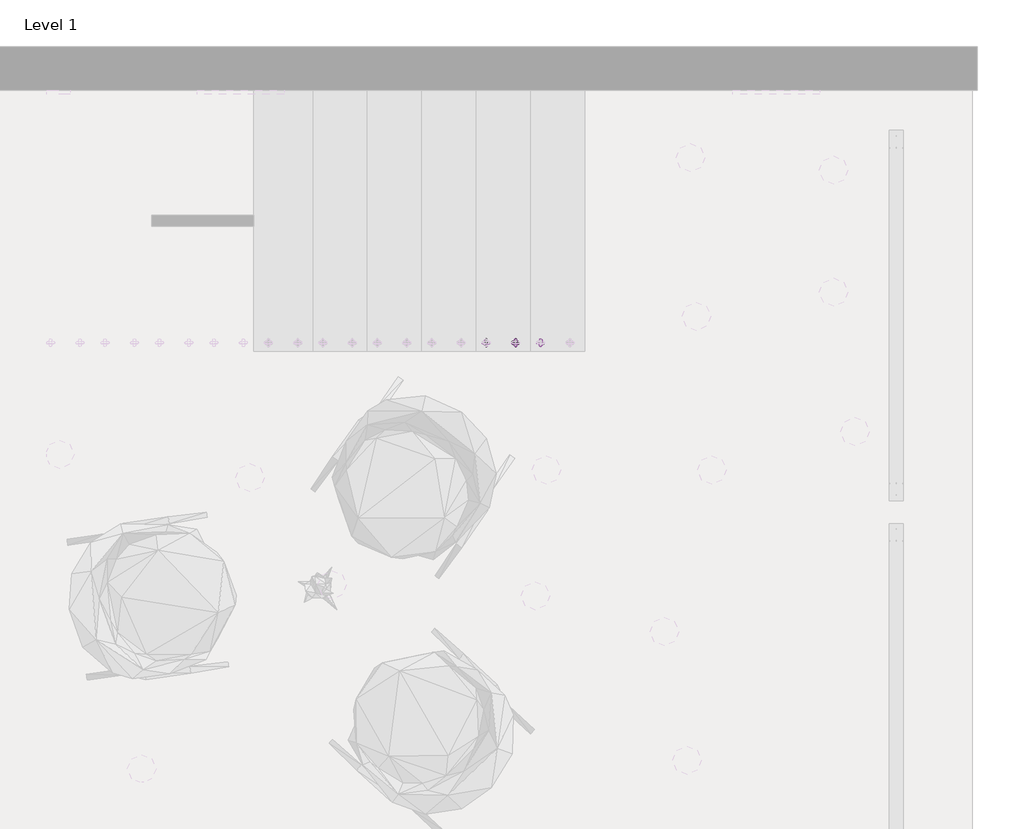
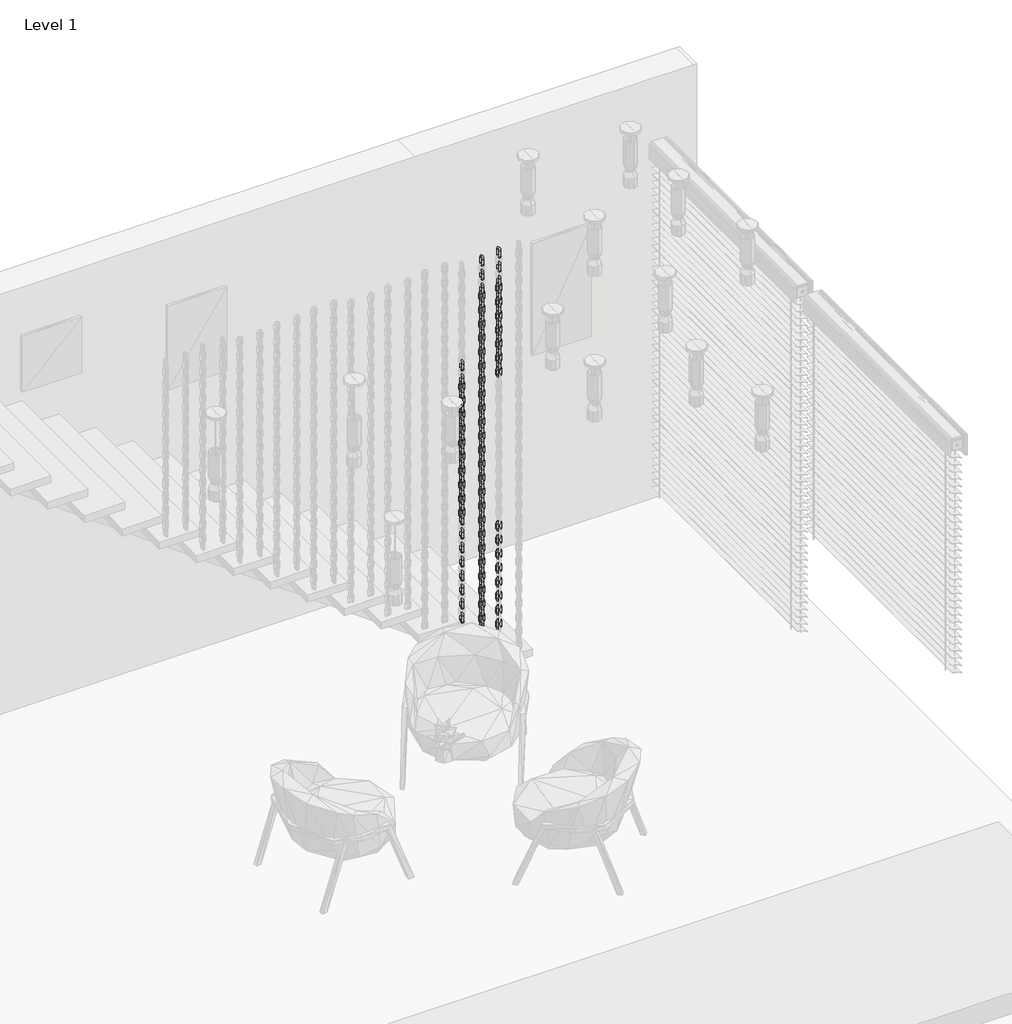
# One storey, part 9 of 12: 108 proxies.
"""IFC4 building model written with IfcOpenShell, lengths in millimetres."""

from ifc_helpers import new_model, si_unit, origin, place, context, project, spatial, transform, mapped, element, save
from components import family1_family1_50133a43, family1_family1_d3af85bb

model = new_model("IFC4")

# Units and contexts
model_context = context("Model", 3, world=origin())
ifc_project = project(units=[si_unit("LENGTHUNIT", "METRE", prefix="MILLI")], contexts=[model_context])

# Site, building, storey
site = spatial("IfcSite", under=ifc_project)
building = spatial("IfcBuilding", under=site)
storey = spatial("IfcBuildingStorey", under=building, Name="Level 1", Elevation=0.0)

# Proxies
placement = place(None, origin())
family1_family1_shape = family1_family1_50133a43(model_context)
element("IfcBuildingElementProxy", 1, Name="Family1 : Family1", ObjectType="Family1 : Family1", at=placement, inside=storey, context=model_context, shape_type="MappedRepresentation", body=[
    mapped(family1_family1_shape, transform((14865.1232124, 1139.760891, 965.1859795), x_axis=(-0.03315618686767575, 0.0, 0.9994501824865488), y_axis=(-0.9994501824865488, 0.0, -0.03315618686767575), z_axis=(0.0, -1.0, 0.0))),
])
element("IfcBuildingElementProxy", 2, Name="Family1 : Family1", ObjectType="Family1 : Family1", at=placement, inside=storey, context=model_context, shape_type="MappedRepresentation", body=[
    mapped(family1_family1_shape, transform((14865.1232124, 1139.760891, 1065.1859795), x_axis=(-0.033156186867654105, 0.0, 0.9994501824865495), y_axis=(-0.9994501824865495, 0.0, -0.033156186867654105), z_axis=(0.0, -1.0, 0.0))),
])
element("IfcBuildingElementProxy", 3, Name="Family1 : Family1", ObjectType="Family1 : Family1", at=placement, inside=storey, context=model_context, shape_type="MappedRepresentation", body=[
    mapped(family1_family1_shape, transform((14865.1232124, 1139.760891, 1165.1859795), x_axis=(-0.03315618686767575, 0.0, 0.9994501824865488), y_axis=(-0.9994501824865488, 0.0, -0.03315618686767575), z_axis=(0.0, -1.0, 0.0))),
])
element("IfcBuildingElementProxy", 4, Name="Family1 : Family1", ObjectType="Family1 : Family1", at=placement, inside=storey, context=model_context, shape_type="MappedRepresentation", body=[
    mapped(family1_family1_shape, transform((14865.1232124, 1139.760891, 1265.1859795), x_axis=(-0.03315618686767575, 0.0, 0.9994501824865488), y_axis=(-0.9994501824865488, 0.0, -0.03315618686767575), z_axis=(0.0, -1.0, 0.0))),
])
element("IfcBuildingElementProxy", 5, Name="Family1 : Family1", ObjectType="Family1 : Family1", at=placement, inside=storey, context=model_context, shape_type="MappedRepresentation", body=[
    mapped(family1_family1_shape, transform((14865.1232124, 1139.760891, 1365.1859795), x_axis=(-0.03315618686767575, 0.0, 0.9994501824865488), y_axis=(-0.9994501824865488, 0.0, -0.03315618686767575), z_axis=(0.0, -1.0, 0.0))),
])
element("IfcBuildingElementProxy", 6, Name="Family1 : Family1", ObjectType="Family1 : Family1", at=placement, inside=storey, context=model_context, shape_type="MappedRepresentation", body=[
    mapped(family1_family1_shape, transform((14865.1232124, 1139.760891, 1465.1859795), x_axis=(-0.03315618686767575, 0.0, 0.9994501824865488), y_axis=(-0.9994501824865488, 0.0, -0.03315618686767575), z_axis=(0.0, -1.0, 0.0))),
])
element("IfcBuildingElementProxy", 7, Name="Family1 : Family1", ObjectType="Family1 : Family1", at=placement, inside=storey, context=model_context, shape_type="MappedRepresentation", body=[
    mapped(family1_family1_shape, transform((14865.1232124, 1139.760891, 1565.1859795), x_axis=(-0.033156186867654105, 0.0, 0.9994501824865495), y_axis=(-0.9994501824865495, 0.0, -0.033156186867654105), z_axis=(0.0, -1.0, 0.0))),
])
element("IfcBuildingElementProxy", 8, Name="Family1 : Family1", ObjectType="Family1 : Family1", at=placement, inside=storey, context=model_context, shape_type="MappedRepresentation", body=[
    mapped(family1_family1_shape, transform((14865.1232124, 1139.760891, 1665.1859795), x_axis=(-0.03315618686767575, 0.0, 0.9994501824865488), y_axis=(-0.9994501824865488, 0.0, -0.03315618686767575), z_axis=(0.0, -1.0, 0.0))),
])
element("IfcBuildingElementProxy", 9, Name="Family1 : Family1", ObjectType="Family1 : Family1", at=placement, inside=storey, context=model_context, shape_type="MappedRepresentation", body=[
    mapped(family1_family1_shape, transform((14865.1232124, 1139.760891, 1765.1859795), x_axis=(-0.03315618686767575, 0.0, 0.9994501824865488), y_axis=(-0.9994501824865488, 0.0, -0.03315618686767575), z_axis=(0.0, -1.0, 0.0))),
])
element("IfcBuildingElementProxy", 10, Name="Family1 : Family1", ObjectType="Family1 : Family1", at=placement, inside=storey, context=model_context, shape_type="MappedRepresentation", body=[
    mapped(family1_family1_shape, transform((14750.1232124, 1139.760891, -52.4610794), x_axis=(-0.033156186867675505, 0.0, 0.9994501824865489), y_axis=(-0.9994501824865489, 0.0, -0.033156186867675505), z_axis=(0.0, -1.0, 0.0))),
])
element("IfcBuildingElementProxy", 11, Name="Family1 : Family1", ObjectType="Family1 : Family1", at=placement, inside=storey, context=model_context, shape_type="MappedRepresentation", body=[
    mapped(family1_family1_shape, transform((14750.1232124, 1139.760891, 47.5389206), x_axis=(-0.033156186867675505, 0.0, 0.9994501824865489), y_axis=(-0.9994501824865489, 0.0, -0.033156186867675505), z_axis=(0.0, -1.0, 0.0))),
])
element("IfcBuildingElementProxy", 12, Name="Family1 : Family1", ObjectType="Family1 : Family1", at=placement, inside=storey, context=model_context, shape_type="MappedRepresentation", body=[
    mapped(family1_family1_shape, transform((14750.1232124, 1139.760891, 147.5389206), x_axis=(-0.033156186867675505, 0.0, 0.9994501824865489), y_axis=(-0.9994501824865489, 0.0, -0.033156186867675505), z_axis=(0.0, -1.0, 0.0))),
])
element("IfcBuildingElementProxy", 13, Name="Family1 : Family1", ObjectType="Family1 : Family1", at=placement, inside=storey, context=model_context, shape_type="MappedRepresentation", body=[
    mapped(family1_family1_shape, transform((14750.1232124, 1139.760891, 247.5389206), x_axis=(-0.033156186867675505, 0.0, 0.9994501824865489), y_axis=(-0.9994501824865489, 0.0, -0.033156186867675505), z_axis=(0.0, -1.0, 0.0))),
])
element("IfcBuildingElementProxy", 14, Name="Family1 : Family1", ObjectType="Family1 : Family1", at=placement, inside=storey, context=model_context, shape_type="MappedRepresentation", body=[
    mapped(family1_family1_shape, transform((14750.1232124, 1139.760891, 347.5389206), x_axis=(-0.033156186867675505, 0.0, 0.9994501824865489), y_axis=(-0.9994501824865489, 0.0, -0.033156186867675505), z_axis=(0.0, -1.0, 0.0))),
])
element("IfcBuildingElementProxy", 15, Name="Family1 : Family1", ObjectType="Family1 : Family1", at=placement, inside=storey, context=model_context, shape_type="MappedRepresentation", body=[
    mapped(family1_family1_shape, transform((14750.1232124, 1139.760891, 447.5389206), x_axis=(-0.033156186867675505, 0.0, 0.9994501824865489), y_axis=(-0.9994501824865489, 0.0, -0.033156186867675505), z_axis=(0.0, -1.0, 0.0))),
])
element("IfcBuildingElementProxy", 16, Name="Family1 : Family1", ObjectType="Family1 : Family1", at=placement, inside=storey, context=model_context, shape_type="MappedRepresentation", body=[
    mapped(family1_family1_shape, transform((14750.1232124, 1139.760891, 547.5389206), x_axis=(-0.033156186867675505, 0.0, 0.9994501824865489), y_axis=(-0.9994501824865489, 0.0, -0.033156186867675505), z_axis=(0.0, -1.0, 0.0))),
])
element("IfcBuildingElementProxy", 17, Name="Family1 : Family1", ObjectType="Family1 : Family1", at=placement, inside=storey, context=model_context, shape_type="MappedRepresentation", body=[
    mapped(family1_family1_shape, transform((14750.1232124, 1139.760891, 647.5389206), x_axis=(-0.03315618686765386, 0.0, 0.9994501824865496), y_axis=(-0.9994501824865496, 0.0, -0.03315618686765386), z_axis=(0.0, -1.0, 0.0))),
])
element("IfcBuildingElementProxy", 18, Name="Family1 : Family1", ObjectType="Family1 : Family1", at=placement, inside=storey, context=model_context, shape_type="MappedRepresentation", body=[
    mapped(family1_family1_shape, transform((14750.1232124, 1139.760891, 747.5389206), x_axis=(-0.033156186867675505, 0.0, 0.9994501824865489), y_axis=(-0.9994501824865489, 0.0, -0.033156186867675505), z_axis=(0.0, -1.0, 0.0))),
])
element("IfcBuildingElementProxy", 19, Name="Family1 : Family1", ObjectType="Family1 : Family1", at=placement, inside=storey, context=model_context, shape_type="MappedRepresentation", body=[
    mapped(family1_family1_shape, transform((14750.1232124, 1139.760891, 847.5389206), x_axis=(-0.033156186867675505, 0.0, 0.9994501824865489), y_axis=(-0.9994501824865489, 0.0, -0.033156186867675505), z_axis=(0.0, -1.0, 0.0))),
])
element("IfcBuildingElementProxy", 20, Name="Family1 : Family1", ObjectType="Family1 : Family1", at=placement, inside=storey, context=model_context, shape_type="MappedRepresentation", body=[
    mapped(family1_family1_shape, transform((14750.1232124, 1139.760891, -152.4610794), x_axis=(-0.033156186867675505, 0.0, 0.9994501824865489), y_axis=(-0.9994501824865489, 0.0, -0.033156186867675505), z_axis=(0.0, -1.0, 0.0))),
])
element("IfcBuildingElementProxy", 21, Name="Family1 : Family1", ObjectType="Family1 : Family1", at=placement, inside=storey, context=model_context, shape_type="MappedRepresentation", body=[
    mapped(family1_family1_shape, transform((14750.1232124, 1139.760891, -252.4610794), x_axis=(-0.03315618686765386, 0.0, 0.9994501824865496), y_axis=(-0.9994501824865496, 0.0, -0.03315618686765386), z_axis=(0.0, -1.0, 0.0))),
])
element("IfcBuildingElementProxy", 22, Name="Family1 : Family1", ObjectType="Family1 : Family1", at=placement, inside=storey, context=model_context, shape_type="MappedRepresentation", body=[
    mapped(family1_family1_shape, transform((14750.1232124, 1139.760891, -352.4610794), x_axis=(-0.033156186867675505, 0.0, 0.9994501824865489), y_axis=(-0.9994501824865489, 0.0, -0.033156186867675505), z_axis=(0.0, -1.0, 0.0))),
])
element("IfcBuildingElementProxy", 23, Name="Family1 : Family1", ObjectType="Family1 : Family1", at=placement, inside=storey, context=model_context, shape_type="MappedRepresentation", body=[
    mapped(family1_family1_shape, transform((14750.1232124, 1139.760891, -452.4610794), x_axis=(-0.033156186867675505, 0.0, 0.9994501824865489), y_axis=(-0.9994501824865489, 0.0, -0.033156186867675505), z_axis=(0.0, -1.0, 0.0))),
])
element("IfcBuildingElementProxy", 24, Name="Family1 : Family1", ObjectType="Family1 : Family1", at=placement, inside=storey, context=model_context, shape_type="MappedRepresentation", body=[
    mapped(family1_family1_shape, transform((14750.1232124, 1139.760891, -552.4610794), x_axis=(-0.033156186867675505, 0.0, 0.9994501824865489), y_axis=(-0.9994501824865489, 0.0, -0.033156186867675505), z_axis=(0.0, -1.0, 0.0))),
])
element("IfcBuildingElementProxy", 25, Name="Family1 : Family1", ObjectType="Family1 : Family1", at=placement, inside=storey, context=model_context, shape_type="MappedRepresentation", body=[
    mapped(family1_family1_shape, transform((14750.1232124, 1139.760891, -652.4610794), x_axis=(-0.033156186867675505, 0.0, 0.9994501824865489), y_axis=(-0.9994501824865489, 0.0, -0.033156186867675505), z_axis=(0.0, -1.0, 0.0))),
])
element("IfcBuildingElementProxy", 26, Name="Family1 : Family1", ObjectType="Family1 : Family1", at=placement, inside=storey, context=model_context, shape_type="MappedRepresentation", body=[
    mapped(family1_family1_shape, transform((14750.1232124, 1139.760891, -752.4610794), x_axis=(-0.033156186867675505, 0.0, 0.9994501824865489), y_axis=(-0.9994501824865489, 0.0, -0.033156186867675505), z_axis=(0.0, -1.0, 0.0))),
])
element("IfcBuildingElementProxy", 27, Name="Family1 : Family1", ObjectType="Family1 : Family1", at=placement, inside=storey, context=model_context, shape_type="MappedRepresentation", body=[
    mapped(family1_family1_shape, transform((14750.1232124, 1139.760891, -852.4610794), x_axis=(-0.033156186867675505, 0.0, 0.9994501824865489), y_axis=(-0.9994501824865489, 0.0, -0.033156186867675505), z_axis=(0.0, -1.0, 0.0))),
])
element("IfcBuildingElementProxy", 28, Name="Family1 : Family1", ObjectType="Family1 : Family1", at=placement, inside=storey, context=model_context, shape_type="MappedRepresentation", body=[
    mapped(family1_family1_shape, transform((14750.1232124, 1139.760891, 947.5389206), x_axis=(-0.033156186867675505, 0.0, 0.9994501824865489), y_axis=(-0.9994501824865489, 0.0, -0.033156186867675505), z_axis=(0.0, -1.0, 0.0))),
])
element("IfcBuildingElementProxy", 29, Name="Family1 : Family1", ObjectType="Family1 : Family1", at=placement, inside=storey, context=model_context, shape_type="MappedRepresentation", body=[
    mapped(family1_family1_shape, transform((14750.1232124, 1139.760891, 1047.5389206), x_axis=(-0.033156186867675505, 0.0, 0.9994501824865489), y_axis=(-0.9994501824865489, 0.0, -0.033156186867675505), z_axis=(0.0, -1.0, 0.0))),
])
element("IfcBuildingElementProxy", 30, Name="Family1 : Family1", ObjectType="Family1 : Family1", at=placement, inside=storey, context=model_context, shape_type="MappedRepresentation", body=[
    mapped(family1_family1_shape, transform((14750.1232124, 1139.760891, 1147.5389206), x_axis=(-0.03315618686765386, 0.0, 0.9994501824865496), y_axis=(-0.9994501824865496, 0.0, -0.03315618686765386), z_axis=(0.0, -1.0, 0.0))),
])
element("IfcBuildingElementProxy", 31, Name="Family1 : Family1", ObjectType="Family1 : Family1", at=placement, inside=storey, context=model_context, shape_type="MappedRepresentation", body=[
    mapped(family1_family1_shape, transform((14750.1232124, 1139.760891, 1247.5389206), x_axis=(-0.033156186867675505, 0.0, 0.9994501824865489), y_axis=(-0.9994501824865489, 0.0, -0.033156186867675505), z_axis=(0.0, -1.0, 0.0))),
])
element("IfcBuildingElementProxy", 32, Name="Family1 : Family1", ObjectType="Family1 : Family1", at=placement, inside=storey, context=model_context, shape_type="MappedRepresentation", body=[
    mapped(family1_family1_shape, transform((14750.1232124, 1139.760891, 1347.5389206), x_axis=(-0.033156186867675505, 0.0, 0.9994501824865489), y_axis=(-0.9994501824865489, 0.0, -0.033156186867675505), z_axis=(0.0, -1.0, 0.0))),
])
element("IfcBuildingElementProxy", 33, Name="Family1 : Family1", ObjectType="Family1 : Family1", at=placement, inside=storey, context=model_context, shape_type="MappedRepresentation", body=[
    mapped(family1_family1_shape, transform((14750.1232124, 1139.760891, 1447.5389206), x_axis=(-0.033156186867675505, 0.0, 0.9994501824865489), y_axis=(-0.9994501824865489, 0.0, -0.033156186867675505), z_axis=(0.0, -1.0, 0.0))),
])
element("IfcBuildingElementProxy", 34, Name="Family1 : Family1", ObjectType="Family1 : Family1", at=placement, inside=storey, context=model_context, shape_type="MappedRepresentation", body=[
    mapped(family1_family1_shape, transform((14750.1232124, 1139.760891, 1547.5389206), x_axis=(-0.033156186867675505, 0.0, 0.9994501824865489), y_axis=(-0.9994501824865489, 0.0, -0.033156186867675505), z_axis=(0.0, -1.0, 0.0))),
])
element("IfcBuildingElementProxy", 35, Name="Family1 : Family1", ObjectType="Family1 : Family1", at=placement, inside=storey, context=model_context, shape_type="MappedRepresentation", body=[
    mapped(family1_family1_shape, transform((14750.1232124, 1139.760891, 1647.5389206), x_axis=(-0.033156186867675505, 0.0, 0.9994501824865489), y_axis=(-0.9994501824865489, 0.0, -0.033156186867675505), z_axis=(0.0, -1.0, 0.0))),
])
element("IfcBuildingElementProxy", 36, Name="Family1 : Family1", ObjectType="Family1 : Family1", at=placement, inside=storey, context=model_context, shape_type="MappedRepresentation", body=[
    mapped(family1_family1_shape, transform((14750.1232124, 1139.760891, 1747.5389206), x_axis=(-0.033156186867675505, 0.0, 0.9994501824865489), y_axis=(-0.9994501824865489, 0.0, -0.033156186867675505), z_axis=(0.0, -1.0, 0.0))),
])
element("IfcBuildingElementProxy", 37, Name="Family1 : Family1", ObjectType="Family1 : Family1", at=placement, inside=storey, context=model_context, shape_type="MappedRepresentation", body=[
    mapped(family1_family1_shape, transform((14615.1232124, 1139.760891, -52.4610794), x_axis=(-0.033156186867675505, 0.0, 0.9994501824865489), y_axis=(-0.9994501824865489, 0.0, -0.033156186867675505), z_axis=(0.0, -1.0, 0.0))),
])
element("IfcBuildingElementProxy", 38, Name="Family1 : Family1", ObjectType="Family1 : Family1", at=placement, inside=storey, context=model_context, shape_type="MappedRepresentation", body=[
    mapped(family1_family1_shape, transform((14615.1232124, 1139.760891, 47.5389206), x_axis=(-0.033156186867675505, 0.0, 0.9994501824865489), y_axis=(-0.9994501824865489, 0.0, -0.033156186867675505), z_axis=(0.0, -1.0, 0.0))),
])
element("IfcBuildingElementProxy", 39, Name="Family1 : Family1", ObjectType="Family1 : Family1", at=placement, inside=storey, context=model_context, shape_type="MappedRepresentation", body=[
    mapped(family1_family1_shape, transform((14615.1232124, 1139.760891, 147.5389206), x_axis=(-0.033156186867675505, 0.0, 0.9994501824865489), y_axis=(-0.9994501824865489, 0.0, -0.033156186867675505), z_axis=(0.0, -1.0, 0.0))),
])
element("IfcBuildingElementProxy", 40, Name="Family1 : Family1", ObjectType="Family1 : Family1", at=placement, inside=storey, context=model_context, shape_type="MappedRepresentation", body=[
    mapped(family1_family1_shape, transform((14615.1232124, 1139.760891, 247.5389206), x_axis=(-0.033156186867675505, 0.0, 0.9994501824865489), y_axis=(-0.9994501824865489, 0.0, -0.033156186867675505), z_axis=(0.0, -1.0, 0.0))),
])
element("IfcBuildingElementProxy", 41, Name="Family1 : Family1", ObjectType="Family1 : Family1", at=placement, inside=storey, context=model_context, shape_type="MappedRepresentation", body=[
    mapped(family1_family1_shape, transform((14615.1232124, 1139.760891, 347.5389206), x_axis=(-0.033156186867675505, 0.0, 0.9994501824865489), y_axis=(-0.9994501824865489, 0.0, -0.033156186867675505), z_axis=(0.0, -1.0, 0.0))),
])
element("IfcBuildingElementProxy", 42, Name="Family1 : Family1", ObjectType="Family1 : Family1", at=placement, inside=storey, context=model_context, shape_type="MappedRepresentation", body=[
    mapped(family1_family1_shape, transform((14615.1232124, 1139.760891, 447.5389206), x_axis=(-0.033156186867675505, 0.0, 0.9994501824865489), y_axis=(-0.9994501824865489, 0.0, -0.033156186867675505), z_axis=(0.0, -1.0, 0.0))),
])
element("IfcBuildingElementProxy", 43, Name="Family1 : Family1", ObjectType="Family1 : Family1", at=placement, inside=storey, context=model_context, shape_type="MappedRepresentation", body=[
    mapped(family1_family1_shape, transform((14615.1232124, 1139.760891, 547.5389206), x_axis=(-0.033156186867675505, 0.0, 0.9994501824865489), y_axis=(-0.9994501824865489, 0.0, -0.033156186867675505), z_axis=(0.0, -1.0, 0.0))),
])
element("IfcBuildingElementProxy", 44, Name="Family1 : Family1", ObjectType="Family1 : Family1", at=placement, inside=storey, context=model_context, shape_type="MappedRepresentation", body=[
    mapped(family1_family1_shape, transform((14615.1232124, 1139.760891, 647.5389206), x_axis=(-0.03315618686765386, 0.0, 0.9994501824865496), y_axis=(-0.9994501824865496, 0.0, -0.03315618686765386), z_axis=(0.0, -1.0, 0.0))),
])
element("IfcBuildingElementProxy", 45, Name="Family1 : Family1", ObjectType="Family1 : Family1", at=placement, inside=storey, context=model_context, shape_type="MappedRepresentation", body=[
    mapped(family1_family1_shape, transform((14615.1232124, 1139.760891, 747.5389206), x_axis=(-0.033156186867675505, 0.0, 0.9994501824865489), y_axis=(-0.9994501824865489, 0.0, -0.033156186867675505), z_axis=(0.0, -1.0, 0.0))),
])
element("IfcBuildingElementProxy", 46, Name="Family1 : Family1", ObjectType="Family1 : Family1", at=placement, inside=storey, context=model_context, shape_type="MappedRepresentation", body=[
    mapped(family1_family1_shape, transform((14615.1232124, 1139.760891, 847.5389206), x_axis=(-0.033156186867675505, 0.0, 0.9994501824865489), y_axis=(-0.9994501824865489, 0.0, -0.033156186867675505), z_axis=(0.0, -1.0, 0.0))),
])
element("IfcBuildingElementProxy", 47, Name="Family1 : Family1", ObjectType="Family1 : Family1", at=placement, inside=storey, context=model_context, shape_type="MappedRepresentation", body=[
    mapped(family1_family1_shape, transform((14615.1232124, 1139.760891, -152.4610794), x_axis=(-0.033156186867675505, 0.0, 0.9994501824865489), y_axis=(-0.9994501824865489, 0.0, -0.033156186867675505), z_axis=(0.0, -1.0, 0.0))),
])
element("IfcBuildingElementProxy", 48, Name="Family1 : Family1", ObjectType="Family1 : Family1", at=placement, inside=storey, context=model_context, shape_type="MappedRepresentation", body=[
    mapped(family1_family1_shape, transform((14615.1232124, 1139.760891, -252.4610794), x_axis=(-0.03315618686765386, 0.0, 0.9994501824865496), y_axis=(-0.9994501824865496, 0.0, -0.03315618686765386), z_axis=(0.0, -1.0, 0.0))),
])
element("IfcBuildingElementProxy", 49, Name="Family1 : Family1", ObjectType="Family1 : Family1", at=placement, inside=storey, context=model_context, shape_type="MappedRepresentation", body=[
    mapped(family1_family1_shape, transform((14615.1232124, 1139.760891, -352.4610794), x_axis=(-0.033156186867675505, 0.0, 0.9994501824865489), y_axis=(-0.9994501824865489, 0.0, -0.033156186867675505), z_axis=(0.0, -1.0, 0.0))),
])
element("IfcBuildingElementProxy", 50, Name="Family1 : Family1", ObjectType="Family1 : Family1", at=placement, inside=storey, context=model_context, shape_type="MappedRepresentation", body=[
    mapped(family1_family1_shape, transform((14615.1232124, 1139.760891, -452.4610794), x_axis=(-0.033156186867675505, 0.0, 0.9994501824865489), y_axis=(-0.9994501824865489, 0.0, -0.033156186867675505), z_axis=(0.0, -1.0, 0.0))),
])
element("IfcBuildingElementProxy", 51, Name="Family1 : Family1", ObjectType="Family1 : Family1", at=placement, inside=storey, context=model_context, shape_type="MappedRepresentation", body=[
    mapped(family1_family1_shape, transform((14615.1232124, 1139.760891, -552.4610794), x_axis=(-0.033156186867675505, 0.0, 0.9994501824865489), y_axis=(-0.9994501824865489, 0.0, -0.033156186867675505), z_axis=(0.0, -1.0, 0.0))),
])
element("IfcBuildingElementProxy", 52, Name="Family1 : Family1", ObjectType="Family1 : Family1", at=placement, inside=storey, context=model_context, shape_type="MappedRepresentation", body=[
    mapped(family1_family1_shape, transform((14615.1232124, 1139.760891, -652.4610794), x_axis=(-0.033156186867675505, 0.0, 0.9994501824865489), y_axis=(-0.9994501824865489, 0.0, -0.033156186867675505), z_axis=(0.0, -1.0, 0.0))),
])
element("IfcBuildingElementProxy", 53, Name="Family1 : Family1", ObjectType="Family1 : Family1", at=placement, inside=storey, context=model_context, shape_type="MappedRepresentation", body=[
    mapped(family1_family1_shape, transform((14615.1232124, 1139.760891, -752.4610794), x_axis=(-0.033156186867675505, 0.0, 0.9994501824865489), y_axis=(-0.9994501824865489, 0.0, -0.033156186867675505), z_axis=(0.0, -1.0, 0.0))),
])
element("IfcBuildingElementProxy", 54, Name="Family1 : Family1", ObjectType="Family1 : Family1", at=placement, inside=storey, context=model_context, shape_type="MappedRepresentation", body=[
    mapped(family1_family1_shape, transform((14615.1232124, 1139.760891, -852.4610794), x_axis=(-0.033156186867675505, 0.0, 0.9994501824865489), y_axis=(-0.9994501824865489, 0.0, -0.033156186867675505), z_axis=(0.0, -1.0, 0.0))),
])
element("IfcBuildingElementProxy", 55, Name="Family1 : Family1", ObjectType="Family1 : Family1", at=placement, inside=storey, context=model_context, shape_type="MappedRepresentation", body=[
    mapped(family1_family1_shape, transform((14615.1232124, 1139.760891, 947.5389206), x_axis=(-0.033156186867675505, 0.0, 0.9994501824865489), y_axis=(-0.9994501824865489, 0.0, -0.033156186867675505), z_axis=(0.0, -1.0, 0.0))),
])
element("IfcBuildingElementProxy", 56, Name="Family1 : Family1", ObjectType="Family1 : Family1", at=placement, inside=storey, context=model_context, shape_type="MappedRepresentation", body=[
    mapped(family1_family1_shape, transform((14615.1232124, 1139.760891, 1047.5389206), x_axis=(-0.033156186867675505, 0.0, 0.9994501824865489), y_axis=(-0.9994501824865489, 0.0, -0.033156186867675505), z_axis=(0.0, -1.0, 0.0))),
])
family1_family1_2_shape = family1_family1_d3af85bb(model_context)
element("IfcBuildingElementProxy", 57, Name="Family1 : Family1", ObjectType="Family1 : Family1", at=placement, inside=storey, context=model_context, shape_type="MappedRepresentation", body=[
    mapped(family1_family1_2_shape, transform((14865.1232124, 1139.760891, -184.8140205), x_axis=(-0.03315618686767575, 0.0, 0.9994501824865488), y_axis=(-0.9994501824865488, 0.0, -0.03315618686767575), z_axis=(0.0, -1.0, 0.0))),
])
element("IfcBuildingElementProxy", 58, Name="Family1 : Family1", ObjectType="Family1 : Family1", at=placement, inside=storey, context=model_context, shape_type="MappedRepresentation", body=[
    mapped(family1_family1_2_shape, transform((14865.1232124, 1139.760891, -284.8140205), x_axis=(-0.03315618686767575, 0.0, 0.9994501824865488), y_axis=(-0.9994501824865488, 0.0, -0.03315618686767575), z_axis=(0.0, -1.0, 0.0))),
])
element("IfcBuildingElementProxy", 59, Name="Family1 : Family1", ObjectType="Family1 : Family1", at=placement, inside=storey, context=model_context, shape_type="MappedRepresentation", body=[
    mapped(family1_family1_2_shape, transform((14865.1232124, 1139.760891, -384.8140205), x_axis=(-0.033156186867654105, 0.0, 0.9994501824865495), y_axis=(-0.9994501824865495, 0.0, -0.033156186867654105), z_axis=(0.0, -1.0, 0.0))),
])
element("IfcBuildingElementProxy", 60, Name="Family1 : Family1", ObjectType="Family1 : Family1", at=placement, inside=storey, context=model_context, shape_type="MappedRepresentation", body=[
    mapped(family1_family1_2_shape, transform((14865.1232124, 1139.760891, -484.8140205), x_axis=(-0.03315618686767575, 0.0, 0.9994501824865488), y_axis=(-0.9994501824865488, 0.0, -0.03315618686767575), z_axis=(0.0, -1.0, 0.0))),
])
element("IfcBuildingElementProxy", 61, Name="Family1 : Family1", ObjectType="Family1 : Family1", at=placement, inside=storey, context=model_context, shape_type="MappedRepresentation", body=[
    mapped(family1_family1_2_shape, transform((14865.1232124, 1139.760891, -584.8140205), x_axis=(-0.03315618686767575, 0.0, 0.9994501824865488), y_axis=(-0.9994501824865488, 0.0, -0.03315618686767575), z_axis=(0.0, -1.0, 0.0))),
])
element("IfcBuildingElementProxy", 62, Name="Family1 : Family1", ObjectType="Family1 : Family1", at=placement, inside=storey, context=model_context, shape_type="MappedRepresentation", body=[
    mapped(family1_family1_2_shape, transform((14865.1232124, 1139.760891, -684.8140205), x_axis=(-0.03315618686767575, 0.0, 0.9994501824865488), y_axis=(-0.9994501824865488, 0.0, -0.03315618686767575), z_axis=(0.0, -1.0, 0.0))),
])
element("IfcBuildingElementProxy", 63, Name="Family1 : Family1", ObjectType="Family1 : Family1", at=placement, inside=storey, context=model_context, shape_type="MappedRepresentation", body=[
    mapped(family1_family1_2_shape, transform((14865.1232124, 1139.760891, -784.8140205), x_axis=(-0.03315618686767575, 0.0, 0.9994501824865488), y_axis=(-0.9994501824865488, 0.0, -0.03315618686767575), z_axis=(0.0, -1.0, 0.0))),
])
element("IfcBuildingElementProxy", 64, Name="Family1 : Family1", ObjectType="Family1 : Family1", at=placement, inside=storey, context=model_context, shape_type="MappedRepresentation", body=[
    mapped(family1_family1_2_shape, transform((14865.1232124, 1139.760891, -884.8140205), x_axis=(-0.033156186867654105, 0.0, 0.9994501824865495), y_axis=(-0.9994501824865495, 0.0, -0.033156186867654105), z_axis=(0.0, -1.0, 0.0))),
])
element("IfcBuildingElementProxy", 65, Name="Family1 : Family1", ObjectType="Family1 : Family1", at=placement, inside=storey, context=model_context, shape_type="MappedRepresentation", body=[
    mapped(family1_family1_2_shape, transform((14865.1232124, 1139.760891, -984.8140205), x_axis=(-0.03315618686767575, 0.0, 0.9994501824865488), y_axis=(-0.9994501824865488, 0.0, -0.03315618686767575), z_axis=(0.0, -1.0, 0.0))),
])
element("IfcBuildingElementProxy", 66, Name="Family1 : Family1", ObjectType="Family1 : Family1", at=placement, inside=storey, context=model_context, shape_type="MappedRepresentation", body=[
    mapped(family1_family1_2_shape, transform((14865.1232124, 1139.760891, -1084.8140205), x_axis=(-0.03315618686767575, 0.0, 0.9994501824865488), y_axis=(-0.9994501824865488, 0.0, -0.03315618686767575), z_axis=(0.0, -1.0, 0.0))),
])
element("IfcBuildingElementProxy", 67, Name="Family1 : Family1", ObjectType="Family1 : Family1", at=placement, inside=storey, context=model_context, shape_type="MappedRepresentation", body=[
    mapped(family1_family1_2_shape, transform((14865.1232124, 1139.760891, 915.1859795), x_axis=(-0.03315618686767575, 0.0, 0.9994501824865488), y_axis=(-0.9994501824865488, 0.0, -0.03315618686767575), z_axis=(0.0, -1.0, 0.0))),
])
element("IfcBuildingElementProxy", 68, Name="Family1 : Family1", ObjectType="Family1 : Family1", at=placement, inside=storey, context=model_context, shape_type="MappedRepresentation", body=[
    mapped(family1_family1_2_shape, transform((14865.1232124, 1139.760891, 1015.1859795), x_axis=(-0.03315618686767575, 0.0, 0.9994501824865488), y_axis=(-0.9994501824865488, 0.0, -0.03315618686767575), z_axis=(0.0, -1.0, 0.0))),
])
element("IfcBuildingElementProxy", 69, Name="Family1 : Family1", ObjectType="Family1 : Family1", at=placement, inside=storey, context=model_context, shape_type="MappedRepresentation", body=[
    mapped(family1_family1_2_shape, transform((14865.1232124, 1139.760891, 1115.1859795), x_axis=(-0.03315618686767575, 0.0, 0.9994501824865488), y_axis=(-0.9994501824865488, 0.0, -0.03315618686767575), z_axis=(0.0, -1.0, 0.0))),
])
element("IfcBuildingElementProxy", 70, Name="Family1 : Family1", ObjectType="Family1 : Family1", at=placement, inside=storey, context=model_context, shape_type="MappedRepresentation", body=[
    mapped(family1_family1_2_shape, transform((14865.1232124, 1139.760891, 1215.1859795), x_axis=(-0.03315618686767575, 0.0, 0.9994501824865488), y_axis=(-0.9994501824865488, 0.0, -0.03315618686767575), z_axis=(0.0, -1.0, 0.0))),
])
element("IfcBuildingElementProxy", 71, Name="Family1 : Family1", ObjectType="Family1 : Family1", at=placement, inside=storey, context=model_context, shape_type="MappedRepresentation", body=[
    mapped(family1_family1_2_shape, transform((14865.1232124, 1139.760891, 1315.1859795), x_axis=(-0.03315618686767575, 0.0, 0.9994501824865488), y_axis=(-0.9994501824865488, 0.0, -0.03315618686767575), z_axis=(0.0, -1.0, 0.0))),
])
element("IfcBuildingElementProxy", 72, Name="Family1 : Family1", ObjectType="Family1 : Family1", at=placement, inside=storey, context=model_context, shape_type="MappedRepresentation", body=[
    mapped(family1_family1_2_shape, transform((14865.1232124, 1139.760891, 1415.1859795), x_axis=(-0.03315618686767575, 0.0, 0.9994501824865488), y_axis=(-0.9994501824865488, 0.0, -0.03315618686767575), z_axis=(0.0, -1.0, 0.0))),
])
element("IfcBuildingElementProxy", 73, Name="Family1 : Family1", ObjectType="Family1 : Family1", at=placement, inside=storey, context=model_context, shape_type="MappedRepresentation", body=[
    mapped(family1_family1_2_shape, transform((14865.1232124, 1139.760891, 1515.1859795), x_axis=(-0.03315618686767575, 0.0, 0.9994501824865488), y_axis=(-0.9994501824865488, 0.0, -0.03315618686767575), z_axis=(0.0, -1.0, 0.0))),
])
element("IfcBuildingElementProxy", 74, Name="Family1 : Family1", ObjectType="Family1 : Family1", at=placement, inside=storey, context=model_context, shape_type="MappedRepresentation", body=[
    mapped(family1_family1_2_shape, transform((14750.1232124, 1139.760891, -2.4610794), x_axis=(-0.033156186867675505, 0.0, 0.9994501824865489), y_axis=(-0.9994501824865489, 0.0, -0.033156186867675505), z_axis=(0.0, -1.0, 0.0))),
])
element("IfcBuildingElementProxy", 75, Name="Family1 : Family1", ObjectType="Family1 : Family1", at=placement, inside=storey, context=model_context, shape_type="MappedRepresentation", body=[
    mapped(family1_family1_2_shape, transform((14750.1232124, 1139.760891, 97.5389206), x_axis=(-0.033156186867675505, 0.0, 0.9994501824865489), y_axis=(-0.9994501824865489, 0.0, -0.033156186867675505), z_axis=(0.0, -1.0, 0.0))),
])
element("IfcBuildingElementProxy", 76, Name="Family1 : Family1", ObjectType="Family1 : Family1", at=placement, inside=storey, context=model_context, shape_type="MappedRepresentation", body=[
    mapped(family1_family1_2_shape, transform((14750.1232124, 1139.760891, 197.5389206), x_axis=(-0.03315618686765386, 0.0, 0.9994501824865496), y_axis=(-0.9994501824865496, 0.0, -0.03315618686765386), z_axis=(0.0, -1.0, 0.0))),
])
element("IfcBuildingElementProxy", 77, Name="Family1 : Family1", ObjectType="Family1 : Family1", at=placement, inside=storey, context=model_context, shape_type="MappedRepresentation", body=[
    mapped(family1_family1_2_shape, transform((14750.1232124, 1139.760891, 297.5389206), x_axis=(-0.033156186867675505, 0.0, 0.9994501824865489), y_axis=(-0.9994501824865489, 0.0, -0.033156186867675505), z_axis=(0.0, -1.0, 0.0))),
])
element("IfcBuildingElementProxy", 78, Name="Family1 : Family1", ObjectType="Family1 : Family1", at=placement, inside=storey, context=model_context, shape_type="MappedRepresentation", body=[
    mapped(family1_family1_2_shape, transform((14750.1232124, 1139.760891, 397.5389206), x_axis=(-0.033156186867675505, 0.0, 0.9994501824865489), y_axis=(-0.9994501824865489, 0.0, -0.033156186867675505), z_axis=(0.0, -1.0, 0.0))),
])
element("IfcBuildingElementProxy", 79, Name="Family1 : Family1", ObjectType="Family1 : Family1", at=placement, inside=storey, context=model_context, shape_type="MappedRepresentation", body=[
    mapped(family1_family1_2_shape, transform((14750.1232124, 1139.760891, 497.5389206), x_axis=(-0.033156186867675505, 0.0, 0.9994501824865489), y_axis=(-0.9994501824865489, 0.0, -0.033156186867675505), z_axis=(0.0, -1.0, 0.0))),
])
element("IfcBuildingElementProxy", 80, Name="Family1 : Family1", ObjectType="Family1 : Family1", at=placement, inside=storey, context=model_context, shape_type="MappedRepresentation", body=[
    mapped(family1_family1_2_shape, transform((14750.1232124, 1139.760891, 597.5389206), x_axis=(-0.033156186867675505, 0.0, 0.9994501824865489), y_axis=(-0.9994501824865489, 0.0, -0.033156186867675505), z_axis=(0.0, -1.0, 0.0))),
])
element("IfcBuildingElementProxy", 81, Name="Family1 : Family1", ObjectType="Family1 : Family1", at=placement, inside=storey, context=model_context, shape_type="MappedRepresentation", body=[
    mapped(family1_family1_2_shape, transform((14750.1232124, 1139.760891, 697.5389206), x_axis=(-0.033156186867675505, 0.0, 0.9994501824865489), y_axis=(-0.9994501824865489, 0.0, -0.033156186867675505), z_axis=(0.0, -1.0, 0.0))),
])
element("IfcBuildingElementProxy", 82, Name="Family1 : Family1", ObjectType="Family1 : Family1", at=placement, inside=storey, context=model_context, shape_type="MappedRepresentation", body=[
    mapped(family1_family1_2_shape, transform((14750.1232124, 1139.760891, 797.5389206), x_axis=(-0.033156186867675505, 0.0, 0.9994501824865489), y_axis=(-0.9994501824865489, 0.0, -0.033156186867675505), z_axis=(0.0, -1.0, 0.0))),
])
element("IfcBuildingElementProxy", 83, Name="Family1 : Family1", ObjectType="Family1 : Family1", at=placement, inside=storey, context=model_context, shape_type="MappedRepresentation", body=[
    mapped(family1_family1_2_shape, transform((14750.1232124, 1139.760891, 897.5389206), x_axis=(-0.033156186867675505, 0.0, 0.9994501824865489), y_axis=(-0.9994501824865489, 0.0, -0.033156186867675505), z_axis=(0.0, -1.0, 0.0))),
])
element("IfcBuildingElementProxy", 84, Name="Family1 : Family1", ObjectType="Family1 : Family1", at=placement, inside=storey, context=model_context, shape_type="MappedRepresentation", body=[
    mapped(family1_family1_2_shape, transform((14750.1232124, 1139.760891, -102.4610794), x_axis=(-0.033156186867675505, 0.0, 0.9994501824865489), y_axis=(-0.9994501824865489, 0.0, -0.033156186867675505), z_axis=(0.0, -1.0, 0.0))),
])
element("IfcBuildingElementProxy", 85, Name="Family1 : Family1", ObjectType="Family1 : Family1", at=placement, inside=storey, context=model_context, shape_type="MappedRepresentation", body=[
    mapped(family1_family1_2_shape, transform((14750.1232124, 1139.760891, -202.4610794), x_axis=(-0.033156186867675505, 0.0, 0.9994501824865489), y_axis=(-0.9994501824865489, 0.0, -0.033156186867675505), z_axis=(0.0, -1.0, 0.0))),
])
element("IfcBuildingElementProxy", 86, Name="Family1 : Family1", ObjectType="Family1 : Family1", at=placement, inside=storey, context=model_context, shape_type="MappedRepresentation", body=[
    mapped(family1_family1_2_shape, transform((14750.1232124, 1139.760891, -302.4610794), x_axis=(-0.033156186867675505, 0.0, 0.9994501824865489), y_axis=(-0.9994501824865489, 0.0, -0.033156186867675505), z_axis=(0.0, -1.0, 0.0))),
])
element("IfcBuildingElementProxy", 87, Name="Family1 : Family1", ObjectType="Family1 : Family1", at=placement, inside=storey, context=model_context, shape_type="MappedRepresentation", body=[
    mapped(family1_family1_2_shape, transform((14750.1232124, 1139.760891, -402.4610794), x_axis=(-0.033156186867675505, 0.0, 0.9994501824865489), y_axis=(-0.9994501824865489, 0.0, -0.033156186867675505), z_axis=(0.0, -1.0, 0.0))),
])
element("IfcBuildingElementProxy", 88, Name="Family1 : Family1", ObjectType="Family1 : Family1", at=placement, inside=storey, context=model_context, shape_type="MappedRepresentation", body=[
    mapped(family1_family1_2_shape, transform((14750.1232124, 1139.760891, -502.4610794), x_axis=(-0.033156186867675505, 0.0, 0.9994501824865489), y_axis=(-0.9994501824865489, 0.0, -0.033156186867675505), z_axis=(0.0, -1.0, 0.0))),
])
element("IfcBuildingElementProxy", 89, Name="Family1 : Family1", ObjectType="Family1 : Family1", at=placement, inside=storey, context=model_context, shape_type="MappedRepresentation", body=[
    mapped(family1_family1_2_shape, transform((14750.1232124, 1139.760891, -602.4610794), x_axis=(-0.033156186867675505, 0.0, 0.9994501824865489), y_axis=(-0.9994501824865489, 0.0, -0.033156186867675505), z_axis=(0.0, -1.0, 0.0))),
])
element("IfcBuildingElementProxy", 90, Name="Family1 : Family1", ObjectType="Family1 : Family1", at=placement, inside=storey, context=model_context, shape_type="MappedRepresentation", body=[
    mapped(family1_family1_2_shape, transform((14750.1232124, 1139.760891, -702.4610794), x_axis=(-0.03315618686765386, 0.0, 0.9994501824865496), y_axis=(-0.9994501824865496, 0.0, -0.03315618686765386), z_axis=(0.0, -1.0, 0.0))),
])
element("IfcBuildingElementProxy", 91, Name="Family1 : Family1", ObjectType="Family1 : Family1", at=placement, inside=storey, context=model_context, shape_type="MappedRepresentation", body=[
    mapped(family1_family1_2_shape, transform((14750.1232124, 1139.760891, -802.4610794), x_axis=(-0.033156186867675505, 0.0, 0.9994501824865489), y_axis=(-0.9994501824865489, 0.0, -0.033156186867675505), z_axis=(0.0, -1.0, 0.0))),
])
element("IfcBuildingElementProxy", 92, Name="Family1 : Family1", ObjectType="Family1 : Family1", at=placement, inside=storey, context=model_context, shape_type="MappedRepresentation", body=[
    mapped(family1_family1_2_shape, transform((14750.1232124, 1139.760891, -902.4610794), x_axis=(-0.033156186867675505, 0.0, 0.9994501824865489), y_axis=(-0.9994501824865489, 0.0, -0.033156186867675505), z_axis=(0.0, -1.0, 0.0))),
])
element("IfcBuildingElementProxy", 93, Name="Family1 : Family1", ObjectType="Family1 : Family1", at=placement, inside=storey, context=model_context, shape_type="MappedRepresentation", body=[
    mapped(family1_family1_2_shape, transform((14750.1232124, 1139.760891, 997.5389206), x_axis=(-0.033156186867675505, 0.0, 0.9994501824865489), y_axis=(-0.9994501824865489, 0.0, -0.033156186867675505), z_axis=(0.0, -1.0, 0.0))),
])
element("IfcBuildingElementProxy", 94, Name="Family1 : Family1", ObjectType="Family1 : Family1", at=placement, inside=storey, context=model_context, shape_type="MappedRepresentation", body=[
    mapped(family1_family1_2_shape, transform((14750.1232124, 1139.760891, 1097.5389206), x_axis=(-0.033156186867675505, 0.0, 0.9994501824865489), y_axis=(-0.9994501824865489, 0.0, -0.033156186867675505), z_axis=(0.0, -1.0, 0.0))),
])
element("IfcBuildingElementProxy", 95, Name="Family1 : Family1", ObjectType="Family1 : Family1", at=placement, inside=storey, context=model_context, shape_type="MappedRepresentation", body=[
    mapped(family1_family1_2_shape, transform((14750.1232124, 1139.760891, 1197.5389206), x_axis=(-0.033156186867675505, 0.0, 0.9994501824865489), y_axis=(-0.9994501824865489, 0.0, -0.033156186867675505), z_axis=(0.0, -1.0, 0.0))),
])
element("IfcBuildingElementProxy", 96, Name="Family1 : Family1", ObjectType="Family1 : Family1", at=placement, inside=storey, context=model_context, shape_type="MappedRepresentation", body=[
    mapped(family1_family1_2_shape, transform((14750.1232124, 1139.760891, 1297.5389206), x_axis=(-0.033156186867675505, 0.0, 0.9994501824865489), y_axis=(-0.9994501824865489, 0.0, -0.033156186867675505), z_axis=(0.0, -1.0, 0.0))),
])
element("IfcBuildingElementProxy", 97, Name="Family1 : Family1", ObjectType="Family1 : Family1", at=placement, inside=storey, context=model_context, shape_type="MappedRepresentation", body=[
    mapped(family1_family1_2_shape, transform((14750.1232124, 1139.760891, 1397.5389206), x_axis=(-0.033156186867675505, 0.0, 0.9994501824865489), y_axis=(-0.9994501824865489, 0.0, -0.033156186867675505), z_axis=(0.0, -1.0, 0.0))),
])
element("IfcBuildingElementProxy", 98, Name="Family1 : Family1", ObjectType="Family1 : Family1", at=placement, inside=storey, context=model_context, shape_type="MappedRepresentation", body=[
    mapped(family1_family1_2_shape, transform((14750.1232124, 1139.760891, 1497.5389206), x_axis=(-0.033156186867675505, 0.0, 0.9994501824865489), y_axis=(-0.9994501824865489, 0.0, -0.033156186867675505), z_axis=(0.0, -1.0, 0.0))),
])
element("IfcBuildingElementProxy", 99, Name="Family1 : Family1", ObjectType="Family1 : Family1", at=placement, inside=storey, context=model_context, shape_type="MappedRepresentation", body=[
    mapped(family1_family1_2_shape, transform((14615.1232124, 1139.760891, -2.4610794), x_axis=(-0.033156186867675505, 0.0, 0.9994501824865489), y_axis=(-0.9994501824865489, 0.0, -0.033156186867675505), z_axis=(0.0, -1.0, 0.0))),
])
element("IfcBuildingElementProxy", 100, Name="Family1 : Family1", ObjectType="Family1 : Family1", at=placement, inside=storey, context=model_context, shape_type="MappedRepresentation", body=[
    mapped(family1_family1_2_shape, transform((14615.1232124, 1139.760891, 97.5389206), x_axis=(-0.033156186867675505, 0.0, 0.9994501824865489), y_axis=(-0.9994501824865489, 0.0, -0.033156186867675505), z_axis=(0.0, -1.0, 0.0))),
])
element("IfcBuildingElementProxy", 101, Name="Family1 : Family1", ObjectType="Family1 : Family1", at=placement, inside=storey, context=model_context, shape_type="MappedRepresentation", body=[
    mapped(family1_family1_2_shape, transform((14615.1232124, 1139.760891, 197.5389206), x_axis=(-0.03315618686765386, 0.0, 0.9994501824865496), y_axis=(-0.9994501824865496, 0.0, -0.03315618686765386), z_axis=(0.0, -1.0, 0.0))),
])
element("IfcBuildingElementProxy", 102, Name="Family1 : Family1", ObjectType="Family1 : Family1", at=placement, inside=storey, context=model_context, shape_type="MappedRepresentation", body=[
    mapped(family1_family1_2_shape, transform((14615.1232124, 1139.760891, 297.5389206), x_axis=(-0.033156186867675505, 0.0, 0.9994501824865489), y_axis=(-0.9994501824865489, 0.0, -0.033156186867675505), z_axis=(0.0, -1.0, 0.0))),
])
element("IfcBuildingElementProxy", 103, Name="Family1 : Family1", ObjectType="Family1 : Family1", at=placement, inside=storey, context=model_context, shape_type="MappedRepresentation", body=[
    mapped(family1_family1_2_shape, transform((14615.1232124, 1139.760891, 397.5389206), x_axis=(-0.033156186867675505, 0.0, 0.9994501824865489), y_axis=(-0.9994501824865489, 0.0, -0.033156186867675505), z_axis=(0.0, -1.0, 0.0))),
])
element("IfcBuildingElementProxy", 104, Name="Family1 : Family1", ObjectType="Family1 : Family1", at=placement, inside=storey, context=model_context, shape_type="MappedRepresentation", body=[
    mapped(family1_family1_2_shape, transform((14615.1232124, 1139.760891, 497.5389206), x_axis=(-0.033156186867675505, 0.0, 0.9994501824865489), y_axis=(-0.9994501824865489, 0.0, -0.033156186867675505), z_axis=(0.0, -1.0, 0.0))),
])
element("IfcBuildingElementProxy", 105, Name="Family1 : Family1", ObjectType="Family1 : Family1", at=placement, inside=storey, context=model_context, shape_type="MappedRepresentation", body=[
    mapped(family1_family1_2_shape, transform((14615.1232124, 1139.760891, 597.5389206), x_axis=(-0.033156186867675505, 0.0, 0.9994501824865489), y_axis=(-0.9994501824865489, 0.0, -0.033156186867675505), z_axis=(0.0, -1.0, 0.0))),
])
element("IfcBuildingElementProxy", 106, Name="Family1 : Family1", ObjectType="Family1 : Family1", at=placement, inside=storey, context=model_context, shape_type="MappedRepresentation", body=[
    mapped(family1_family1_2_shape, transform((14615.1232124, 1139.760891, 697.5389206), x_axis=(-0.033156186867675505, 0.0, 0.9994501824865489), y_axis=(-0.9994501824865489, 0.0, -0.033156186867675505), z_axis=(0.0, -1.0, 0.0))),
])
element("IfcBuildingElementProxy", 107, Name="Family1 : Family1", ObjectType="Family1 : Family1", at=placement, inside=storey, context=model_context, shape_type="MappedRepresentation", body=[
    mapped(family1_family1_2_shape, transform((14615.1232124, 1139.760891, 797.5389206), x_axis=(-0.033156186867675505, 0.0, 0.9994501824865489), y_axis=(-0.9994501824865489, 0.0, -0.033156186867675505), z_axis=(0.0, -1.0, 0.0))),
])
element("IfcBuildingElementProxy", 108, Name="Family1 : Family1", ObjectType="Family1 : Family1", at=placement, inside=storey, context=model_context, shape_type="MappedRepresentation", body=[
    mapped(family1_family1_2_shape, transform((14615.1232124, 1139.760891, 897.5389206), x_axis=(-0.033156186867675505, 0.0, 0.9994501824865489), y_axis=(-0.9994501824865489, 0.0, -0.033156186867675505), z_axis=(0.0, -1.0, 0.0))),
])

save(model, "model.ifc")
